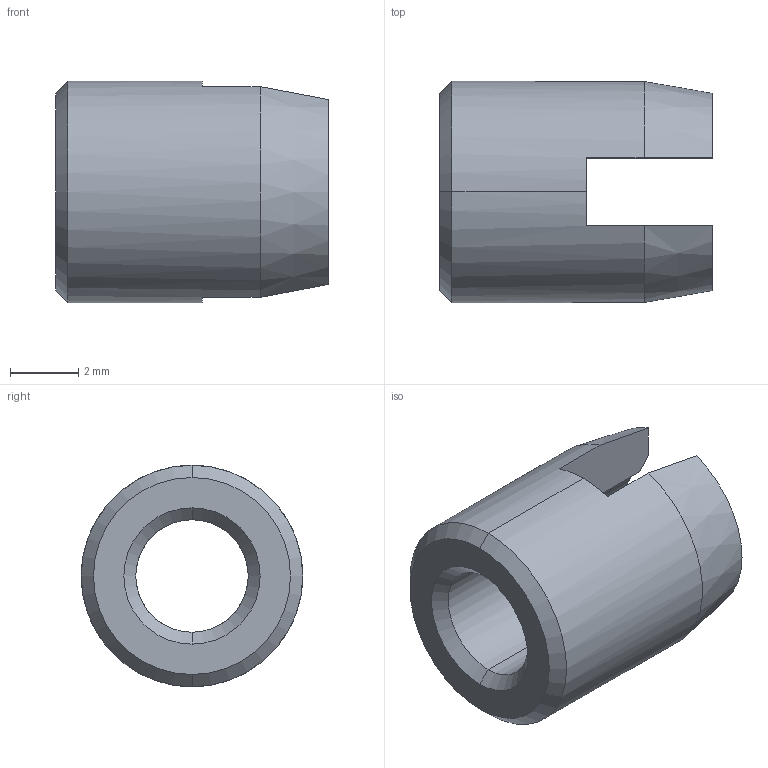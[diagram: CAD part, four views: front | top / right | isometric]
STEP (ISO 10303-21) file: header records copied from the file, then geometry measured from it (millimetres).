
FILE_DESCRIPTION (( 'STEP AP203' ), '1' );
FILE_NAME ('FSUK-SCR-M04.STEP', '2021-04-14T09:48:32', ( '' ), ( '' ), 'SwSTEP 2.0', 'SolidWorks 2021', '' );
FILE_SCHEMA (( 'CONFIG_CONTROL_DESIGN' ));
Length unit declared in the file: millimetre
Products named in the file (1): FSUK-SCR-M04
Bounding box: 8 x 6.5 x 6.5 mm (x, y, z)
Volume: 164.6 mm3; surface area: 274.4 mm2
Topology: 1 solids, 1 shells, 21 faces, 56 edges, 36 vertices
Faces by surface type: plane 9, cone 8, cylinder 4
Entity records: 751 total; most frequent: CARTESIAN_POINT 138, DIRECTION 116, ORIENTED_EDGE 112, EDGE_CURVE 56, AXIS2_PLACEMENT_3D 46, VERTEX_POINT 36, VECTOR 24, CIRCLE 24
